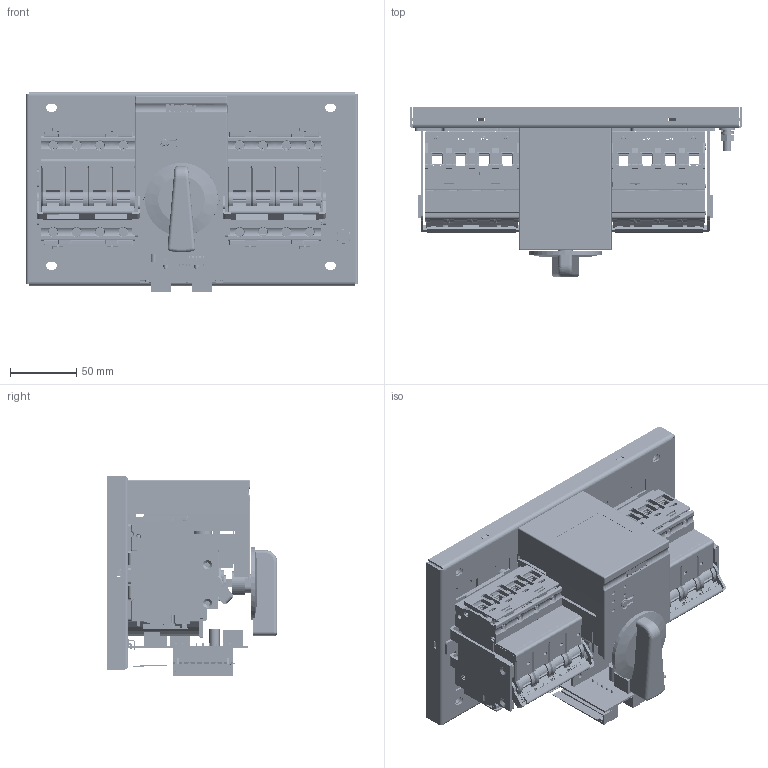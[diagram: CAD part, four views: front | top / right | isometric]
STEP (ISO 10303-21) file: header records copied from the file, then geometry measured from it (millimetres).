
FILE_DESCRIPTION(/* description */ (''),/* implementation_level */ '2;1');
FILE_NAME(/* name */ 'NDQ2A-63 5G.log.stp',/* time_stamp */ '2021-12-01T10:06:38+08:00',/* author */ (''),/* organization */ (''),/* preprocessor_version */ 'ST-DEVELOPER v16',/* originating_system */ 'SIEMENS PLM Software NX 10.0',/* authorisation */ '');
FILE_SCHEMA (('AP203_CONFIGURATION_CONTROLLED_3D_DESIGN_OF_MECHANICAL_PARTS_AND_ASSEMBLIES_MIM_LF { 1 0 10303 403 2 1 2}'));
Products named in the file (1): 114A8BBED4cp7
Bounding box: 250 x 128.2 x 150.9 mm (x, y, z)
Volume: 657074.6 mm3; surface area: 668597.7 mm2
Topology: 195 solids, 1018 shells, 16601 faces, 53843 edges, 38541 vertices
Faces by surface type: plane 11942, cylinder 2146, extrusion 2018, cone 191, torus 129, bspline 100, sphere 75
Full cylindrical faces by diameter (mm): 1 x189, 1.2 x2, 1.4 x30, 1.5 x10, 1.6 x17, 1.7 x17, 1.8 x4, 2 x17, 2.5 x10, 2.6 x2, 3 x42, 3.3 x4, 3.4 x6, 3.5 x9, 3.8 x34, 3.9 x2, 4 x28, 4.216 x2, 4.5 x23, 5 x17, 5.1 x1, 6 x13, 6.6 x2, 6.9 x4, 7 x5, 7.5 x16, 7.8 x2, 8 x3, 10 x2, 12 x6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
Entity records: 623999 total; most frequent: CARTESIAN_POINT 166123, ORIENTED_EDGE 92756, DIRECTION 82760, EDGE_CURVE 53027, VECTOR 42198, LINE 40180, VERTEX_POINT 38407, AXIS2_PLACEMENT_3D 20281
